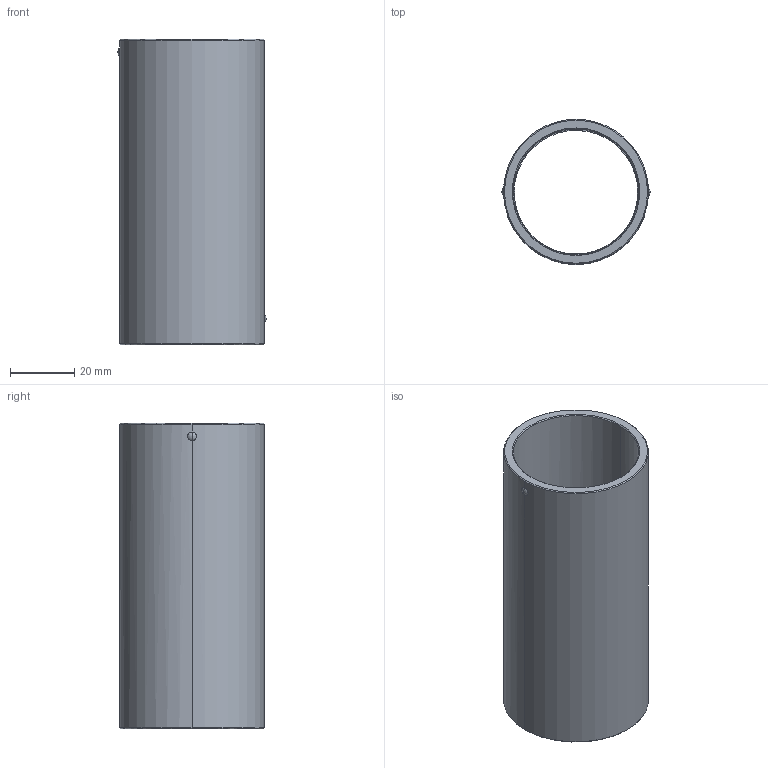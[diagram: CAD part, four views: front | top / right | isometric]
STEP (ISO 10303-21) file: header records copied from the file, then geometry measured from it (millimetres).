
FILE_DESCRIPTION(('CATIA V5 STEP Exchange'),'2;1');
FILE_NAME('C:\Users\Utente\Desktop\IO LAVORO\3D X SITO CF\X SITO\730\730-38x95.stp','2021-01-07T16:10:00+00:00',('none'),('none'),'CATIA Version 5 Release 20 GA (IN-10)','CATIA V5 STEP AP203','none');
FILE_SCHEMA(('CONFIG_CONTROL_DESIGN'));
Length unit declared in the file: millimetre
Products named in the file (1): 730-38x95
Bounding box: 45.99 x 45 x 95 mm (x, y, z)
Volume: 36699.9 mm3; surface area: 26279.4 mm2
Topology: 1 solids, 1 shells, 44 faces, 120 edges, 76 vertices
Faces by surface type: cylinder 18, cone 10, plane 8, sphere 8
Entity records: 1739 total; most frequent: CARTESIAN_POINT 676, ORIENTED_EDGE 240, DIRECTION 159, EDGE_CURVE 120, AXIS2_PLACEMENT_3D 78, VERTEX_POINT 76, B_SPLINE_CURVE_WITH_KNOTS 49, EDGE_LOOP 48
